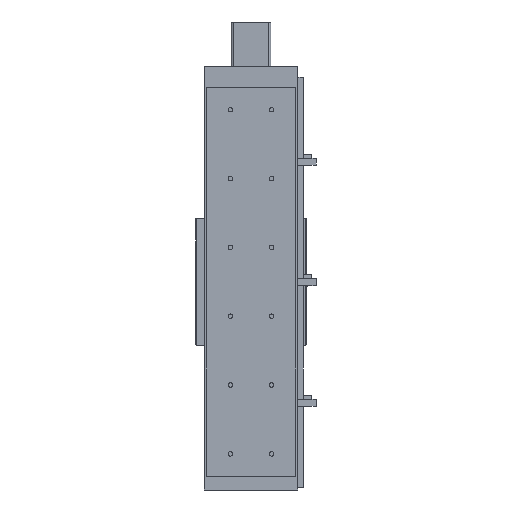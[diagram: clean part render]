
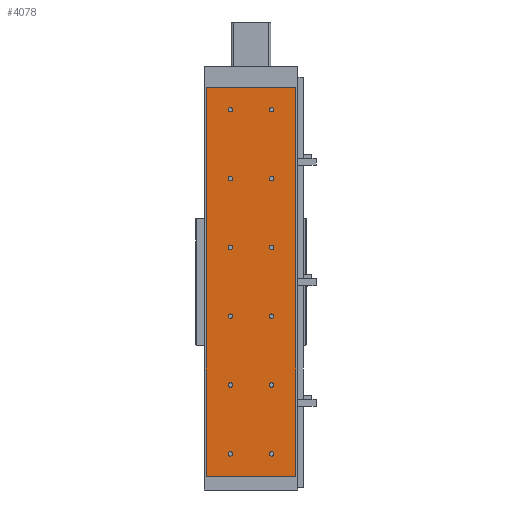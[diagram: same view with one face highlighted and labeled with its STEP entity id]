
A CAD part, front view. The second image highlights one B-rep face of the part: STEP entity #4078.
In plain terms, the highlighted planar face has unit normal (0, -1, 0).
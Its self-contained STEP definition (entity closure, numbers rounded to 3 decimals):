
#2214=CARTESIAN_POINT('',(26.75,0.0,32.5));
#2215=VERTEX_POINT('',#2214);
#2216=CARTESIAN_POINT('',(30.,0.0,32.5));
#2217=DIRECTION('',(0.0,1.0,0.0));
#2218=DIRECTION('',(1.0,0.0,0.0));
#2219=AXIS2_PLACEMENT_3D('',#2216,#2217,#2218);
#2220=CIRCLE('',#2219,3.25);
#2221=EDGE_CURVE('',#2215,#2215,#2220,.T.);
#2255=CARTESIAN_POINT('',(-33.25,0.0,32.5));
#2256=VERTEX_POINT('',#2255);
#2257=CARTESIAN_POINT('',(-30.,0.0,32.5));
#2258=DIRECTION('',(0.0,1.0,0.0));
#2259=DIRECTION('',(1.0,0.0,0.0));
#2260=AXIS2_PLACEMENT_3D('',#2257,#2258,#2259);
#2261=CIRCLE('',#2260,3.25);
#2262=EDGE_CURVE('',#2256,#2256,#2261,.T.);
#2434=CARTESIAN_POINT('',(26.75,0.0,132.5));
#2435=VERTEX_POINT('',#2434);
#2436=CARTESIAN_POINT('',(30.,0.0,132.5));
#2437=DIRECTION('',(0.0,1.0,0.0));
#2438=DIRECTION('',(1.0,0.0,0.0));
#2439=AXIS2_PLACEMENT_3D('',#2436,#2437,#2438);
#2440=CIRCLE('',#2439,3.25);
#2441=EDGE_CURVE('',#2435,#2435,#2440,.T.);
#2475=CARTESIAN_POINT('',(-33.25,0.0,132.5));
#2476=VERTEX_POINT('',#2475);
#2477=CARTESIAN_POINT('',(-30.,0.0,132.5));
#2478=DIRECTION('',(0.0,1.0,0.0));
#2479=DIRECTION('',(1.0,0.0,0.0));
#2480=AXIS2_PLACEMENT_3D('',#2477,#2478,#2479);
#2481=CIRCLE('',#2480,3.25);
#2482=EDGE_CURVE('',#2476,#2476,#2481,.T.);
#2585=CARTESIAN_POINT('',(-33.25,0.0,432.5));
#2586=VERTEX_POINT('',#2585);
#2587=CARTESIAN_POINT('',(-30.,0.0,432.5));
#2588=DIRECTION('',(0.0,1.0,0.0));
#2589=DIRECTION('',(1.0,0.0,0.0));
#2590=AXIS2_PLACEMENT_3D('',#2587,#2588,#2589);
#2591=CIRCLE('',#2590,3.25);
#2592=EDGE_CURVE('',#2586,#2586,#2591,.T.);
#2764=CARTESIAN_POINT('',(26.75,0.0,432.5));
#2765=VERTEX_POINT('',#2764);
#2766=CARTESIAN_POINT('',(30.,0.0,432.5));
#2767=DIRECTION('',(0.0,1.0,0.0));
#2768=DIRECTION('',(1.0,0.0,0.0));
#2769=AXIS2_PLACEMENT_3D('',#2766,#2767,#2768);
#2770=CIRCLE('',#2769,3.25);
#2771=EDGE_CURVE('',#2765,#2765,#2770,.T.);
#2805=CARTESIAN_POINT('',(-33.25,0.0,532.5));
#2806=VERTEX_POINT('',#2805);
#2807=CARTESIAN_POINT('',(-30.,0.0,532.5));
#2808=DIRECTION('',(0.0,1.0,0.0));
#2809=DIRECTION('',(1.0,0.0,0.0));
#2810=AXIS2_PLACEMENT_3D('',#2807,#2808,#2809);
#2811=CIRCLE('',#2810,3.25);
#2812=EDGE_CURVE('',#2806,#2806,#2811,.T.);
#2984=CARTESIAN_POINT('',(26.75,0.0,532.5));
#2985=VERTEX_POINT('',#2984);
#2986=CARTESIAN_POINT('',(30.,0.0,532.5));
#2987=DIRECTION('',(0.0,1.0,0.0));
#2988=DIRECTION('',(1.0,0.0,0.0));
#2989=AXIS2_PLACEMENT_3D('',#2986,#2987,#2988);
#2990=CIRCLE('',#2989,3.25);
#2991=EDGE_CURVE('',#2985,#2985,#2990,.T.);
#3025=CARTESIAN_POINT('',(-33.25,0.0,232.5));
#3026=VERTEX_POINT('',#3025);
#3027=CARTESIAN_POINT('',(-30.,0.0,232.5));
#3028=DIRECTION('',(0.0,1.0,0.0));
#3029=DIRECTION('',(1.0,0.0,0.0));
#3030=AXIS2_PLACEMENT_3D('',#3027,#3028,#3029);
#3031=CIRCLE('',#3030,3.25);
#3032=EDGE_CURVE('',#3026,#3026,#3031,.T.);
#3204=CARTESIAN_POINT('',(26.75,0.0,232.5));
#3205=VERTEX_POINT('',#3204);
#3206=CARTESIAN_POINT('',(30.,0.0,232.5));
#3207=DIRECTION('',(0.0,1.0,0.0));
#3208=DIRECTION('',(1.0,0.0,0.0));
#3209=AXIS2_PLACEMENT_3D('',#3206,#3207,#3208);
#3210=CIRCLE('',#3209,3.25);
#3211=EDGE_CURVE('',#3205,#3205,#3210,.T.);
#3314=CARTESIAN_POINT('',(26.75,0.0,332.5));
#3315=VERTEX_POINT('',#3314);
#3316=CARTESIAN_POINT('',(30.,0.0,332.5));
#3317=DIRECTION('',(0.0,1.0,0.0));
#3318=DIRECTION('',(1.0,0.0,0.0));
#3319=AXIS2_PLACEMENT_3D('',#3316,#3317,#3318);
#3320=CIRCLE('',#3319,3.25);
#3321=EDGE_CURVE('',#3315,#3315,#3320,.T.);
#3424=CARTESIAN_POINT('',(-33.25,0.0,332.5));
#3425=VERTEX_POINT('',#3424);
#3426=CARTESIAN_POINT('',(-30.,0.0,332.5));
#3427=DIRECTION('',(0.0,1.0,0.0));
#3428=DIRECTION('',(1.0,0.0,0.0));
#3429=AXIS2_PLACEMENT_3D('',#3426,#3427,#3428);
#3430=CIRCLE('',#3429,3.25);
#3431=EDGE_CURVE('',#3425,#3425,#3430,.T.);
#3758=CARTESIAN_POINT('',(65.0,0.0,0.0));
#3759=VERTEX_POINT('',#3758);
#3766=CARTESIAN_POINT('',(-65.0,0.0,0.0));
#3767=VERTEX_POINT('',#3766);
#3768=CARTESIAN_POINT('',(-65.0,0.0,0.0));
#3769=DIRECTION('',(1.0,0.0,0.0));
#3770=VECTOR('',#3769,130.0);
#3771=LINE('',#3768,#3770);
#3772=EDGE_CURVE('',#3767,#3759,#3771,.T.);
#3962=CARTESIAN_POINT('',(-65.0,0.0,565.0));
#3963=VERTEX_POINT('',#3962);
#3970=CARTESIAN_POINT('',(65.0,0.0,565.0));
#3971=VERTEX_POINT('',#3970);
#3972=CARTESIAN_POINT('',(65.0,0.0,565.0));
#3973=DIRECTION('',(-1.0,0.0,0.0));
#3974=VECTOR('',#3973,130.0);
#3975=LINE('',#3972,#3974);
#3976=EDGE_CURVE('',#3971,#3963,#3975,.T.);
#3999=CARTESIAN_POINT('',(-65.0,0.0,0.0));
#4000=DIRECTION('',(0.0,0.0,1.0));
#4001=VECTOR('',#4000,565.0);
#4002=LINE('',#3999,#4001);
#4003=EDGE_CURVE('',#3767,#3963,#4002,.T.);
#4021=CARTESIAN_POINT('',(65.0,0.0,0.0));
#4022=DIRECTION('',(0.0,0.0,1.0));
#4023=VECTOR('',#4022,565.0);
#4024=LINE('',#4021,#4023);
#4025=EDGE_CURVE('',#3759,#3971,#4024,.T.);
#4031=CARTESIAN_POINT('',(65.0,0.0,0.0));
#4032=DIRECTION('',(0.0,-1.0,0.0));
#4033=DIRECTION('',(0.0,0.0,-1.0));
#4034=AXIS2_PLACEMENT_3D('',#4031,#4032,#4033);
#4035=PLANE('',#4034);
#4036=ORIENTED_EDGE('',*,*,#3976,.T.);
#4037=ORIENTED_EDGE('',*,*,#4003,.F.);
#4038=ORIENTED_EDGE('',*,*,#3772,.T.);
#4039=ORIENTED_EDGE('',*,*,#4025,.T.);
#4040=EDGE_LOOP('',(#4036,#4037,#4038,#4039));
#4041=FACE_OUTER_BOUND('',#4040,.T.);
#4042=ORIENTED_EDGE('',*,*,#2221,.T.);
#4043=EDGE_LOOP('',(#4042));
#4044=FACE_BOUND('',#4043,.T.);
#4045=ORIENTED_EDGE('',*,*,#2262,.T.);
#4046=EDGE_LOOP('',(#4045));
#4047=FACE_BOUND('',#4046,.T.);
#4048=ORIENTED_EDGE('',*,*,#2441,.T.);
#4049=EDGE_LOOP('',(#4048));
#4050=FACE_BOUND('',#4049,.T.);
#4051=ORIENTED_EDGE('',*,*,#2482,.T.);
#4052=EDGE_LOOP('',(#4051));
#4053=FACE_BOUND('',#4052,.T.);
#4054=ORIENTED_EDGE('',*,*,#2592,.T.);
#4055=EDGE_LOOP('',(#4054));
#4056=FACE_BOUND('',#4055,.T.);
#4057=ORIENTED_EDGE('',*,*,#2771,.T.);
#4058=EDGE_LOOP('',(#4057));
#4059=FACE_BOUND('',#4058,.T.);
#4060=ORIENTED_EDGE('',*,*,#2812,.T.);
#4061=EDGE_LOOP('',(#4060));
#4062=FACE_BOUND('',#4061,.T.);
#4063=ORIENTED_EDGE('',*,*,#2991,.T.);
#4064=EDGE_LOOP('',(#4063));
#4065=FACE_BOUND('',#4064,.T.);
#4066=ORIENTED_EDGE('',*,*,#3032,.T.);
#4067=EDGE_LOOP('',(#4066));
#4068=FACE_BOUND('',#4067,.T.);
#4069=ORIENTED_EDGE('',*,*,#3211,.T.);
#4070=EDGE_LOOP('',(#4069));
#4071=FACE_BOUND('',#4070,.T.);
#4072=ORIENTED_EDGE('',*,*,#3321,.T.);
#4073=EDGE_LOOP('',(#4072));
#4074=FACE_BOUND('',#4073,.T.);
#4075=ORIENTED_EDGE('',*,*,#3431,.T.);
#4076=EDGE_LOOP('',(#4075));
#4077=FACE_BOUND('',#4076,.T.);
#4078=ADVANCED_FACE('',(#4041,#4044,#4047,#4050,#4053,#4056,#4059,#4062,#4065,#4068,#4071,#4074,#4077),#4035,.T.);
